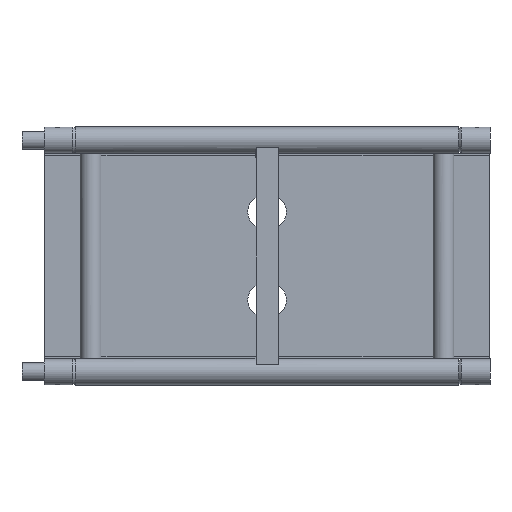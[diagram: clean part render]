
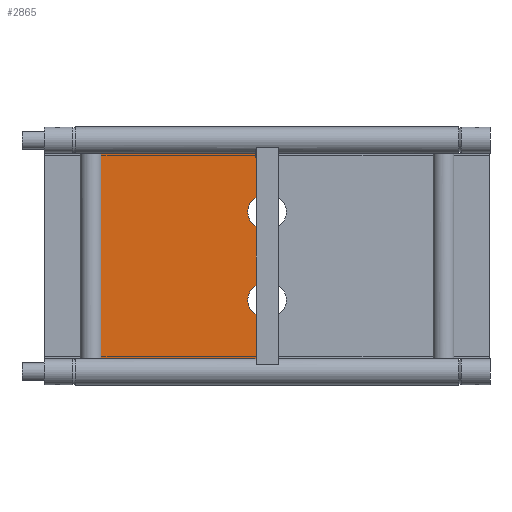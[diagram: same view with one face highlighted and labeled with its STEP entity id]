
A CAD part, front view. The second image highlights one B-rep face of the part: STEP entity #2865.
In plain terms, the highlighted planar face has unit normal (0, -1, 0).
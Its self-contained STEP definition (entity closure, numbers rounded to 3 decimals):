
#294=FACE_OUTER_BOUND('',#467,.T.);
#467=EDGE_LOOP('',(#1916,#1917,#1918,#1919,#1920,#1921,#1922,#1923));
#720=CIRCLE('',#3068,37.5);
#721=CIRCLE('',#3069,37.5);
#832=LINE('',#4703,#1012);
#833=LINE('',#4707,#1013);
#834=LINE('',#4711,#1014);
#835=LINE('',#4713,#1015);
#836=LINE('',#4715,#1016);
#837=LINE('',#4716,#1017);
#1012=VECTOR('',#3437,10.);
#1013=VECTOR('',#3440,10.);
#1014=VECTOR('',#3443,10.);
#1015=VECTOR('',#3444,10.);
#1016=VECTOR('',#3445,10.);
#1017=VECTOR('',#3446,10.);
#1220=VERTEX_POINT('',#4701);
#1221=VERTEX_POINT('',#4702);
#1222=VERTEX_POINT('',#4704);
#1223=VERTEX_POINT('',#4706);
#1224=VERTEX_POINT('',#4708);
#1225=VERTEX_POINT('',#4710);
#1226=VERTEX_POINT('',#4712);
#1227=VERTEX_POINT('',#4714);
#1514=EDGE_CURVE('',#1220,#1221,#832,.T.);
#1515=EDGE_CURVE('',#1221,#1222,#720,.T.);
#1516=EDGE_CURVE('',#1222,#1223,#833,.T.);
#1517=EDGE_CURVE('',#1223,#1224,#721,.T.);
#1518=EDGE_CURVE('',#1224,#1225,#834,.T.);
#1519=EDGE_CURVE('',#1225,#1226,#835,.T.);
#1520=EDGE_CURVE('',#1227,#1226,#836,.T.);
#1521=EDGE_CURVE('',#1220,#1227,#837,.T.);
#1916=ORIENTED_EDGE('',*,*,#1514,.T.);
#1917=ORIENTED_EDGE('',*,*,#1515,.T.);
#1918=ORIENTED_EDGE('',*,*,#1516,.T.);
#1919=ORIENTED_EDGE('',*,*,#1517,.T.);
#1920=ORIENTED_EDGE('',*,*,#1518,.T.);
#1921=ORIENTED_EDGE('',*,*,#1519,.T.);
#1922=ORIENTED_EDGE('',*,*,#1520,.F.);
#1923=ORIENTED_EDGE('',*,*,#1521,.F.);
#2588=PLANE('',#3067);
#2865=ADVANCED_FACE('',(#294),#2588,.T.);
#3067=AXIS2_PLACEMENT_3D('',#4700,#3435,#3436);
#3068=AXIS2_PLACEMENT_3D('',#4705,#3438,#3439);
#3069=AXIS2_PLACEMENT_3D('',#4709,#3441,#3442);
#3435=DIRECTION('center_axis',(0.,-1.,0.));
#3436=DIRECTION('ref_axis',(0.,0.,
1.));
#3437=DIRECTION('',(0.,0.,1.));
#3438=DIRECTION('center_axis',(0.,1.,0.));
#3439=DIRECTION('ref_axis',(0.,0.,
-1.));
#3440=DIRECTION('',(0.,0.,1.));
#3441=DIRECTION('center_axis',(0.,1.,0.));
#3442=DIRECTION('ref_axis',(0.,0.,-1.));
#3443=DIRECTION('',(0.,0.,1.));
#3444=DIRECTION('',(-1.,0.,0.));
#3445=DIRECTION('',(0.,0.,1.));
#3446=DIRECTION('',(-1.,0.,0.));
#4700=CARTESIAN_POINT('Origin',(499.,74.,-30.));
#4701=CARTESIAN_POINT('',(475.,74.,-490.));
#4702=CARTESIAN_POINT('',(475.,74.,-391.33));
#4703=CARTESIAN_POINT('',(475.,74.,-503.));
#4704=CARTESIAN_POINT('',(475.,74.,-326.67));
#4705=CARTESIAN_POINT('Origin',(494.,74.,-359.));
#4706=CARTESIAN_POINT('',(475.,74.,-193.33));
#4707=CARTESIAN_POINT('',(475.,74.,-503.));
#4708=CARTESIAN_POINT('',(475.,74.,-128.67));
#4709=CARTESIAN_POINT('Origin',(494.,74.,-161.));
#4710=CARTESIAN_POINT('',(475.,74.,-30.));
#4711=CARTESIAN_POINT('',(475.,74.,-503.));
#4712=CARTESIAN_POINT('',(106.837,74.,-30.));
#4713=CARTESIAN_POINT('',(499.,74.,-30.));
#4714=CARTESIAN_POINT('',(106.837,74.,-490.));
#4715=CARTESIAN_POINT('',(106.837,74.,-260.));
#4716=CARTESIAN_POINT('',(499.,74.,-490.));
